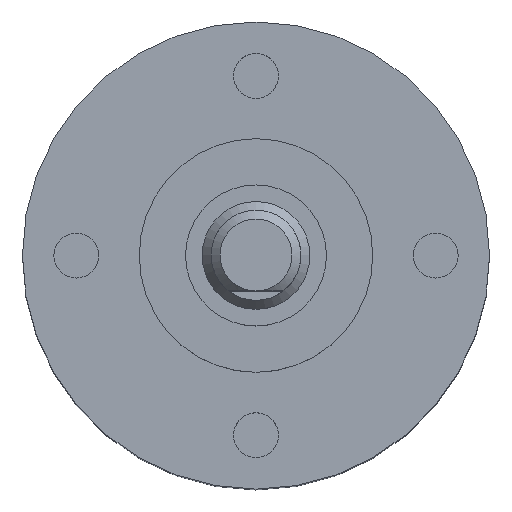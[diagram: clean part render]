
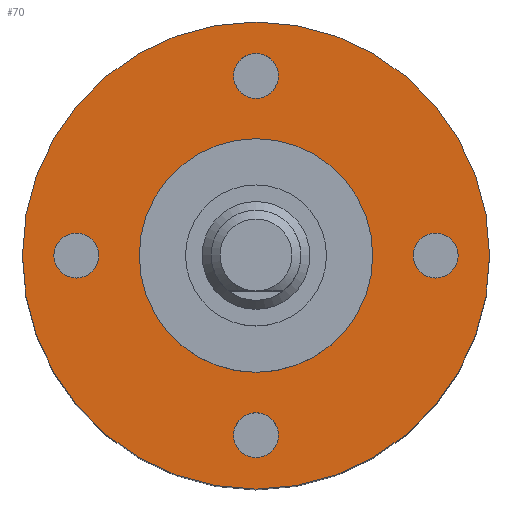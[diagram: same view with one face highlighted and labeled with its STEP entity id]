
A CAD part, top view. The second image highlights one B-rep face of the part: STEP entity #70.
In plain terms, the highlighted planar face has unit normal (0, 0, 1).
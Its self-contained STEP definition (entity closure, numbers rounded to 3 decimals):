
#37=PLANE('',#425);
#70=ADVANCED_FACE('',(#128,#129,#130,#131,#132,#133),#37,.T.);
#128=FACE_BOUND('',#181,.T.);
#129=FACE_BOUND('',#182,.T.);
#130=FACE_BOUND('',#183,.T.);
#131=FACE_BOUND('',#184,.T.);
#132=FACE_BOUND('',#185,.T.);
#133=FACE_BOUND('',#186,.T.);
#181=EDGE_LOOP('',(#248));
#182=EDGE_LOOP('',(#249));
#183=EDGE_LOOP('',(#250));
#184=EDGE_LOOP('',(#251));
#185=EDGE_LOOP('',(#252));
#186=EDGE_LOOP('',(#253));
#248=ORIENTED_EDGE('',*,*,#351,.T.);
#249=ORIENTED_EDGE('',*,*,#352,.T.);
#250=ORIENTED_EDGE('',*,*,#353,.T.);
#251=ORIENTED_EDGE('',*,*,#354,.T.);
#252=ORIENTED_EDGE('',*,*,#348,.T.);
#253=ORIENTED_EDGE('',*,*,#355,.F.);
#313=VERTEX_POINT('',#631);
#316=VERTEX_POINT('',#639);
#317=VERTEX_POINT('',#641);
#318=VERTEX_POINT('',#643);
#319=VERTEX_POINT('',#645);
#320=VERTEX_POINT('',#647);
#348=EDGE_CURVE('',#313,#313,#380,.T.);
#351=EDGE_CURVE('',#316,#316,#383,.T.);
#352=EDGE_CURVE('',#317,#317,#384,.T.);
#353=EDGE_CURVE('',#318,#318,#385,.T.);
#354=EDGE_CURVE('',#319,#319,#386,.T.);
#355=EDGE_CURVE('',#320,#320,#387,.T.);
#380=CIRCLE('',#415,6.5);
#383=CIRCLE('',#420,1.25);
#384=CIRCLE('',#421,1.25);
#385=CIRCLE('',#422,1.25);
#386=CIRCLE('',#423,1.25);
#387=CIRCLE('',#424,13.);
#415=AXIS2_PLACEMENT_3D('',#630,#494,#495);
#420=AXIS2_PLACEMENT_3D('',#638,#504,#505);
#421=AXIS2_PLACEMENT_3D('',#640,#506,#507);
#422=AXIS2_PLACEMENT_3D('',#642,#508,#509);
#423=AXIS2_PLACEMENT_3D('',#644,#510,#511);
#424=AXIS2_PLACEMENT_3D('',#646,#512,#513);
#425=AXIS2_PLACEMENT_3D('',#648,#514,#515);
#494=DIRECTION('',(0.,0.,-1.));
#495=DIRECTION('',(1.,0.,0.));
#504=DIRECTION('',(0.,0.,-1.));
#505=DIRECTION('',(0.,1.,0.));
#506=DIRECTION('',(0.,0.,-1.));
#507=DIRECTION('',(1.,0.,0.));
#508=DIRECTION('',(0.,0.,-1.));
#509=DIRECTION('',(0.,-1.,0.));
#510=DIRECTION('',(0.,0.,-1.));
#511=DIRECTION('',(-1.,0.,0.));
#512=DIRECTION('',(0.,0.,-1.));
#513=DIRECTION('',(-1.,0.,0.));
#514=DIRECTION('',(0.,0.,1.));
#515=DIRECTION('',(1.,0.,0.));
#630=CARTESIAN_POINT('',(0.,0.,0.));
#631=CARTESIAN_POINT('',(6.5,0.,0.));
#638=CARTESIAN_POINT('',(10.,0.,0.));
#639=CARTESIAN_POINT('',(10.,1.25,0.));
#640=CARTESIAN_POINT('',(0.,-10.,0.));
#641=CARTESIAN_POINT('',(1.25,-10.,0.));
#642=CARTESIAN_POINT('',(-10.,0.,0.));
#643=CARTESIAN_POINT('',(-10.,-1.25,0.));
#644=CARTESIAN_POINT('',(0.,10.,0.));
#645=CARTESIAN_POINT('',(-1.25,10.,0.));
#646=CARTESIAN_POINT('',(0.,0.,0.));
#647=CARTESIAN_POINT('',(-13.,0.,0.));
#648=CARTESIAN_POINT('',(0.,0.,0.));
